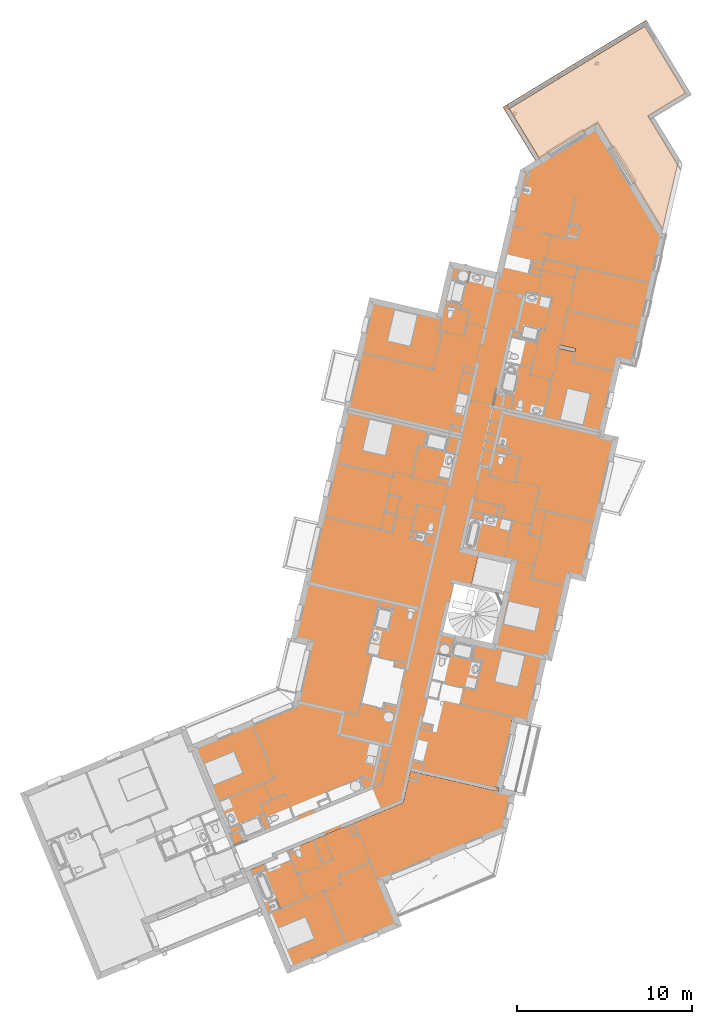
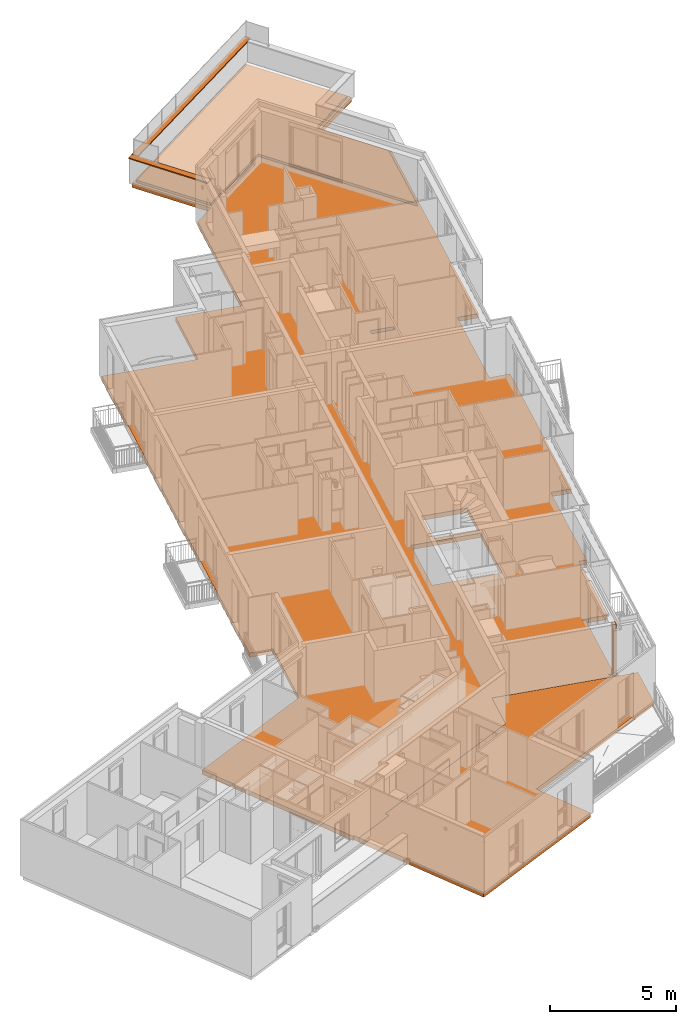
# One storey, part 90 of 91: 6 proxies, 2 openings.
"""IFC2X3 building model written with IfcOpenShell, lengths in metres."""

from ifc_helpers import new_model, entity, si_unit, converted_unit, derived_unit, money_unit, direction, frame, origin_with_axes, place, context, subcontext, project, spatial, faceted_brep, material, material_list, type_object, element, save


model = new_model("IFC2X3")

# Units and contexts
model_context = context("Model", 3, precision=1e-05, world=origin_with_axes(), true_north=direction((0.0, 1.0)))
body_context = subcontext(model_context, "Body", "Model", "MODEL_VIEW")
ifc_project = project(units=[si_unit("LENGTHUNIT", "METRE"), si_unit("AREAUNIT", "SQUARE_METRE"), si_unit("VOLUMEUNIT", "CUBIC_METRE"), converted_unit("PLANEANGLEUNIT", "DEGREE", entity("IfcPlaneAngleMeasure", 0.0174532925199), si_unit("PLANEANGLEUNIT", "RADIAN"), dimensions=[0, 0, 0, 0, 0, 0, 0]), si_unit("SOLIDANGLEUNIT", "STERADIAN"), money_unit("EUR"), converted_unit("TIMEUNIT", "Year", entity("IfcTimeMeasure", 31556926.0), si_unit("TIMEUNIT", "SECOND"), dimensions=[0, 0, 1, 0, 0, 0, 0]), si_unit("MASSUNIT", "GRAM", prefix="KILO"), si_unit("THERMODYNAMICTEMPERATUREUNIT", "DEGREE_CELSIUS"), si_unit("LUMINOUSINTENSITYUNIT", "LUMEN"), si_unit("ENERGYUNIT", "JOULE", prefix="MEGA"), derived_unit("THERMALCONDUCTANCEUNIT", [(si_unit("POWERUNIT", "WATT"), 1), (si_unit("LENGTHUNIT", "METRE"), -1), (si_unit("THERMODYNAMICTEMPERATUREUNIT", "KELVIN"), -1)]), derived_unit("SPECIFICHEATCAPACITYUNIT", [(si_unit("ENERGYUNIT", "JOULE"), 1), (si_unit("MASSUNIT", "GRAM", prefix="KILO"), -1), (si_unit("THERMODYNAMICTEMPERATUREUNIT", "KELVIN"), -1)]), derived_unit("MASSDENSITYUNIT", [(si_unit("MASSUNIT", "GRAM", prefix="KILO"), 1), (si_unit("VOLUMEUNIT", "CUBIC_METRE"), -1)])], contexts=[model_context])

# Site, building, storey
site_placement = place(None, origin_with_axes())
site = spatial("IfcSite", under=ifc_project, at=site_placement, Name="Site", CompositionType="ELEMENT")
building_placement = place(site_placement, origin_with_axes())
building = spatial("IfcBuilding", under=site, at=building_placement, Name="Bâtiment", CompositionType="ELEMENT")
storey_placement = place(building_placement, frame((0.0, 0.0, 5.44), z_axis=(0.0, 0.0, 1.0), x_axis=(1.0, 0.0, 0.0)))
storey = spatial("IfcBuildingStorey", under=building, at=storey_placement, Name="R+2", CompositionType="ELEMENT", Elevation=5.44)

# Proxy
ifc_material_1 = material(Name="Béton")
building_element_proxy_type_1 = type_object("IfcBuildingElementProxyType", Name="Béton 180", PredefinedType="NOTDEFINED")
proxy_1_placement = place(storey_placement, frame((-8.05114683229, -17.6308126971, 0.0), z_axis=(0.0, 0.0, 1.0), x_axis=(-0.97438734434, 0.224876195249, 0.0)))
element("IfcBuildingElementProxy", 1, at=proxy_1_placement, inside=storey, type_object=building_element_proxy_type_1, material=ifc_material_1, Name="M_Ext-009", context=body_context, shape_type="Brep", body=[
    faceted_brep([(0.0, 0.0, 0.0), (0.0, 0.18, 0.0), (0.144999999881, 0.18, 0.0), (0.144999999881, 0.0, 0.0), (0.0, 0.0, 2.5), (0.0, 0.18, 2.5), (0.144999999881, 0.18, 2.5), (0.144999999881, 0.0, 2.5)], [[[0, 1, 2, 3]], [[4, 5, 1, 0]], [[1, 5, 6, 2]], [[7, 3, 2, 6]], [[4, 0, 3, 7]], [[5, 4, 7, 6]]]),
])

# Proxy, openings
building_element_proxy_type_2 = type_object("IfcBuildingElementProxyType", Name="Béton 210", PredefinedType="NOTDEFINED")
proxy_2_placement = place(storey_placement, frame((-22.6492582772, -22.181358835, 0.0), z_axis=(0.0, 0.0, 1.0), x_axis=(1.0, 0.0, 0.0)))
proxy_2 = element("IfcBuildingElementProxy", 2, at=proxy_2_placement, inside=storey, type_object=building_element_proxy_type_2, material=ifc_material_1, Name="Dalle_004", context=body_context, shape_type="Brep", body=[
    faceted_brep([(14.6911282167, 4.54447334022, -0.209999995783), (14.6877550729, 4.52985753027, -0.210000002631), (14.3350268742, 4.61126271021, -0.21), (14.3197352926, 4.54500437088, -0.21), (14.6724634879, 4.46359919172, -0.210000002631), (14.6427798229, 4.33498006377, -0.21), (9.52822067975, 5.51535523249, -0.21), (9.11110858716, 3.70801080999, -0.21), (1.88172818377, 0.709568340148, -0.21), (1.95451957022, 0.534065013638, -0.21), (0.160690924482, -0.209939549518, -0.21), (0.0618478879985, 0.0283754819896, -0.21), (0.0, 0.0, -0.21), (-2.88135926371, 6.94708748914, -0.21), (2.94245780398, 9.36292369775, -0.21), (3.72876409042, 12.769900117, -0.21), (2.77384620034, 12.9902830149, -0.21), (7.26472895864, 32.4492535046, -0.21), (11.1427905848, 31.5542462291, -0.21), (11.8241654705, 34.5066398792, -0.21), (14.5137769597, 33.8859117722, -0.21), (15.8717268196, 39.7699010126, -0.21), (16.7972148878, 40.3324096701, -0.21), (14.9533933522, 43.3660250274, -0.21), (22.9553015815, 48.229558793, -0.21), (25.4292347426, 44.1592290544, -0.21), (23.2928858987, 42.8607631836, -0.21), (24.9392801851, 40.1519722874, -0.209999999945), (22.3054301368, 28.7395144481, -0.21), (21.5377993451, 28.9166738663, -0.21), (21.4715410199, 28.9319654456, -0.21), (21.4636703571, 28.8978619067, -0.21), (20.4951285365, 24.7011756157, -0.21), (21.3290176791, 24.5087246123, -0.21), (19.4624081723, 16.4207158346, -0.21), (18.6285190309, 16.6131668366, -0.21), (17.5356941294, 11.8779626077, -0.21), (17.2213744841, 11.9505035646, -0.21), (16.3494560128, 8.17248559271, -0.21), (15.5699461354, 8.35238653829, -0.209999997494), (15.3146566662, 8.41130411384, -0.21), (15.2993650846, 8.3450457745, -0.21), (15.4260354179, 8.31581187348, -0.209999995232), (14.562509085, 4.57415699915, -0.21), (14.1875108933, 12.7858152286, -0.21), (14.830656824, 15.5725630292, -0.21), (12.0195493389, 16.2213308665, -0.21), (11.3764034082, 13.434583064, -0.21), (14.875632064, 15.7674404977, -0.21), (15.2354339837, 17.3264602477, -0.21), (13.3840980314, 17.7537250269, -0.21), (13.0242961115, 16.1947052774, -0.21), (18.0130691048, 29.8399493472, -0.21), (17.9680938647, 29.6450718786, -0.21), (18.913842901, 29.4268050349, -0.21), (18.9588181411, 29.6216825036, -0.21), (14.6911282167, 4.54447334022, -0.200000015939), (14.6911282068, 4.54447334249, -1.55429713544e-09), (14.6877550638, 4.52985753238, 0.0), (14.3350268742, 4.61126271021, 0.0), (14.3242328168, 4.56449211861, 0.0), (14.3242328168, 4.56449211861, -0.200000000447), (14.3197352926, 4.54500437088, -0.2), (14.6724634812, 4.46359919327, -0.200000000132), (14.6769610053, 4.48308694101, -0.200000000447), (14.6769610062, 4.48308694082, 0.0), (14.6427798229, 4.33498006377, 0.0), (9.52822067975, 5.51535523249, 0.0), (9.11110858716, 3.70801080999, 0.0), (1.88172818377, 0.709568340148, 0.0), (1.95451957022, 0.534065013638, 0.0), (0.160690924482, -0.209939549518, 0.0), (0.0618478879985, 0.0283754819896, 0.0), (0.0, 0.0, 0.0), (-2.88135926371, 6.94708748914, 0.0), (2.94245780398, 9.36292369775, 0.0), (3.72876409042, 12.769900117, 0.0), (2.77384620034, 12.9902830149, 0.0), (7.26472895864, 32.4492535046, 0.0), (11.1427905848, 31.5542462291, 0.0), (11.8241654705, 34.5066398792, 0.0), (14.5137769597, 33.8859117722, 0.0), (15.8717268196, 39.7699010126, 0.0), (16.7972148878, 40.3324096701, 0.0), (14.9533933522, 43.3660250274, 0.0), (22.9553015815, 48.229558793, 0.0), (25.4292347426, 44.1592290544, 0.0), (23.2928858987, 42.8607631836, 0.0), (24.9393149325, 40.1519151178, -0.200000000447), (24.9392801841, 40.151972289, -0.200000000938), (24.8258558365, 40.3385878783, 0.0), (24.8258558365, 40.3385878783, -0.0171179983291), (24.8267737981, 40.3370775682, -0.0171179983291), (24.826773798, 40.3370775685, 0.0), (24.9393149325, 40.1519151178, 0.0), (22.3054301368, 28.7395144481, -0.2), (21.5377993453, 28.9166738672, -0.2), (21.4910287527, 28.9274679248, -0.200000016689), (21.4715410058, 28.9319654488, -0.200000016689), (21.463670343, 28.8978619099, -0.200000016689), (21.4636703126, 28.8978619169, 0.0), (20.4951285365, 24.7011756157, 0.0), (21.3290176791, 24.5087246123, 0.0), (19.4624081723, 16.4207158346, 0.0), (18.6285190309, 16.6131668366, 0.0), (17.5356941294, 11.8779626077, 0.0), (17.2213744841, 11.9505035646, 0.0), (16.3494560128, 8.17248559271, 0.0), (15.5699461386, 8.35238655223, 0.0), (15.5699461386, 8.35238655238, -0.200000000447), (15.3146566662, 8.41130411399, -0.200000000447), (15.3101591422, 8.39181636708, -0.200000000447), (15.3101591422, 8.39181636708, -1.36298261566e-09), (15.2993650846, 8.3450457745, -1.36298261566e-09), (15.2993650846, 8.3450457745, -0.2), (15.4260354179, 8.31581187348, -0.2), (15.4260354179, 8.31581187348, -1.19922294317e-09), (14.5625090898, 4.57415699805, -1.4579093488e-09), (14.1875108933, 12.7858152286, 0.0), (14.830656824, 15.5725630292, 0.0), (12.0195493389, 16.2213308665, 0.0), (11.3764034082, 13.434583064, 0.0), (14.875632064, 15.7674404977, 0.0), (15.2354339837, 17.3264602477, 0.0), (13.3840980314, 17.7537250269, 0.0), (13.0242961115, 16.1947052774, 0.0), (18.0130691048, 29.8399493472, 0.0), (17.9680938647, 29.6450718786, 0.0), (18.913842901, 29.4268050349, 0.0), (18.9588181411, 29.6216825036, 0.0), (15.5654486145, 8.33289880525, -1.03294439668e-09), (21.4831580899, 28.8933643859, 0.0), (21.4865312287, 28.9079801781, 0.0), (22.3202836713, 28.7155607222, 0.0), (23.8610726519, 36.1526997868, 0.0), (23.8598701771, 36.1529773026, 0.0), (22.3202836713, 28.7155607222, -0.200000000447), (22.3009326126, 28.7200267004, -0.200000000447), (21.5333018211, 28.8971861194, -0.200000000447), (21.4865312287, 28.9079801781, -0.200000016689), (23.8598701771, 36.1529773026, -0.0171179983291), (23.8610726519, 36.1526997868, -0.0171179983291), (21.4831580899, 28.8933643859, -0.200000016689), (15.5654485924, 8.33289881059, -0.200000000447)], [[[0, 1, 2, 3, 4, 5, 6, 7, 8, 9, 10, 11, 12, 13, 14, 15, 16, 17, 18, 19, 20, 21, 22, 23, 24, 25, 26, 27, 28, 29, 30, 31, 32, 33, 34, 35, 36, 37, 38, 39, 40, 41, 42, 43], [44, 45, 46, 47], [48, 49, 50, 51], [52, 53, 54, 55]], [[56, 57, 58, 1, 0]], [[2, 1, 58, 59]], [[3, 2, 59, 60, 61, 62]], [[4, 3, 62, 63]], [[4, 63, 64, 65, 66, 5]], [[6, 5, 66, 67]], [[7, 6, 67, 68]], [[8, 7, 68, 69]], [[9, 8, 69, 70]], [[10, 9, 70, 71]], [[11, 10, 71, 72]], [[12, 11, 72, 73]], [[13, 12, 73, 74]], [[14, 13, 74, 75]], [[15, 14, 75, 76]], [[16, 15, 76, 77]], [[17, 16, 77, 78]], [[18, 17, 78, 79]], [[19, 18, 79, 80]], [[20, 19, 80, 81]], [[21, 20, 81, 82]], [[22, 21, 82, 83]], [[23, 22, 83, 84]], [[24, 23, 84, 85]], [[25, 24, 85, 86]], [[26, 25, 86, 87]], [[88, 89, 27, 26, 87, 90, 91, 92, 93, 94]], [[28, 27, 89, 95]], [[29, 28, 95, 96, 97, 98, 30]], [[31, 30, 98, 99]], [[100, 101, 32, 31, 99]], [[33, 32, 101, 102]], [[34, 33, 102, 103]], [[35, 34, 103, 104]], [[36, 35, 104, 105]], [[37, 36, 105, 106]], [[38, 37, 106, 107]], [[39, 38, 107, 108, 109]], [[109, 110, 40, 39]], [[111, 112, 113, 114, 41, 40, 110]], [[115, 42, 41, 114]], [[116, 117, 43, 42, 115]], [[117, 57, 56, 0, 43]], [[45, 44, 118, 119]], [[46, 45, 119, 120]], [[47, 46, 120, 121]], [[44, 47, 121, 118]], [[49, 48, 122, 123]], [[50, 49, 123, 124]], [[51, 50, 124, 125]], [[48, 51, 125, 122]], [[52, 126, 127, 53]], [[53, 127, 128, 54]], [[54, 128, 129, 55]], [[55, 129, 126, 52]], [[66, 65, 60, 59, 58, 57, 117, 116, 113, 112, 130, 108, 107, 106, 105, 104, 103, 102, 101, 100, 131, 132, 133, 94, 93, 134, 135, 90, 87, 86, 85, 84, 83, 82, 81, 80, 79, 78, 77, 76, 75, 74, 73, 72, 71, 70, 69, 68, 67], [120, 119, 118, 121], [122, 125, 124, 123], [128, 127, 126, 129]], [[64, 61, 60, 65]], [[63, 62, 61, 64]], [[89, 88, 136, 137, 138, 139, 97, 96, 95]], [[135, 140, 91, 90]], [[140, 141, 92, 91]], [[92, 141, 134, 93]], [[136, 88, 94, 133]], [[98, 97, 139, 142, 99]], [[142, 131, 100, 99]], [[130, 143, 109, 108]], [[109, 143, 111, 110]], [[143, 130, 112, 111]], [[113, 116, 115, 114]], [[132, 131, 142, 139]], [[138, 137, 136, 133, 132, 139]], [[141, 140, 135, 134]]]),
])
opening_1_placement = place(proxy_2_placement, origin_with_axes())
element("IfcOpeningElement", 3, at=opening_1_placement, cuts=proxy_2, Name="Ouverture de dalle", context=body_context, shape_type="Brep", body=[
    faceted_brep([(14.1875108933, 12.7858152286, -0.21), (12.1023219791, 13.2670502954, -0.21), (12.1045707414, 13.2767941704, -0.21), (11.388396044, 13.4420781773, -0.21), (12.0292932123, 16.2190821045, -0.21), (14.830656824, 15.5725630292, -0.21), (14.1875108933, 12.7858152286, 0.0), (11.3764034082, 13.434583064, 0.0), (11.3764034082, 13.434583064, -0.2), (12.1023219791, 13.2670502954, -0.2), (12.1045707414, 13.2767941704, -0.2), (11.388396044, 13.4420781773, -0.2), (12.0292932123, 16.2190821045, -0.2), (12.0195493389, 16.2213308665, 0.0), (14.830656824, 15.5725630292, 0.0), (12.0195493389, 16.2213308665, -0.2)], [[[0, 1, 2, 3, 4, 5]], [[6, 7, 8, 9, 1, 0]], [[1, 9, 10, 2]], [[10, 11, 3, 2]], [[12, 4, 3, 11]], [[13, 14, 5, 4, 12, 15]], [[14, 6, 0, 5]], [[7, 6, 14, 13]], [[7, 13, 15, 8]], [[15, 12, 11, 10, 9, 8]]]),
])
opening_2_placement = place(proxy_2_placement, origin_with_axes())
element("IfcOpeningElement", 4, at=opening_2_placement, cuts=proxy_2, Name="Ouverture de dalle", context=body_context, shape_type="Brep", body=[
    faceted_brep([(13.0242961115, 16.1947052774, -0.21), (13.3840980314, 17.7537250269, -0.21), (15.2354339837, 17.3264602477, -0.21), (14.875632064, 15.7674404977, -0.21), (13.0242961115, 16.1947052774, 0.0), (13.3840980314, 17.7537250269, 0.0), (15.2354339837, 17.3264602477, 0.0), (14.875632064, 15.7674404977, 0.0)], [[[0, 1, 2, 3]], [[4, 5, 1, 0]], [[5, 6, 2, 1]], [[6, 7, 3, 2]], [[7, 4, 0, 3]], [[4, 7, 6, 5]]]),
])

# Proxies
ifc_material_2 = material(Name="Métal - Aluminium")
building_element_proxy_type_3 = type_object("IfcBuildingElementProxyType", Name="Couvertine Métal 280 x 50", PredefinedType="USERDEFINED")
proxy_3_placement = place(storey_placement, frame((-5.94546646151, 18.1834586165, 1.253), z_axis=(0.0, 0.0, 1.0), x_axis=(-0.519386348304, 0.854539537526, 0.0)))
element("IfcBuildingElementProxy", 5, at=proxy_3_placement, inside=storey, type_object=building_element_proxy_type_3, material=ifc_material_2, Name="Couvertine métal laqué", ObjectType="CONSTRUCTION ELEMENT", context=body_context, shape_type="Brep", body=[
    faceted_brep([(3.57997877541, 0.0399453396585, -0.0442531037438), (3.57997877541, 0.043193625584, -0.0442531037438), (3.57420657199, 0.0374214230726, -0.0399754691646), (3.57644880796, 0.036415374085, -0.0416371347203), (3.5817865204, 0.0431936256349, -0.0442531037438), (3.58178651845, 0.0399453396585, -0.0442531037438), (0.0, 0.0374214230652, -0.0399754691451), (0.0, 0.0431936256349, -0.0442531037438), (0.0, 0.036415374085, -0.0416371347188), (0.0, 0.0450013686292, -0.048), (3.5817865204, 0.0450013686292, -0.048), (3.5817865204, 0.0431936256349, 0.0), (0.0, 0.0431936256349, 0.0), (3.5817865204, 0.0450013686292, 0.00199999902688), (3.5817865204, -0.235001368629, 0.00199999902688), (3.58178651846, -0.235001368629, -1.46180134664e-09), (3.5817865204, -0.233193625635, 0.0), (0.0, 0.0450013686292, 0.002), (0.0, -0.233193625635, 0.0), (0.0, -0.233193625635, -0.0442531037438), (0.0, -0.227421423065, -0.0399754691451), (0.0, -0.226415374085, -0.0416371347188), (0.0, -0.235001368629, -0.048), (0.0, -0.235001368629, 0.002), (3.57997877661, -0.233193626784, -1.46180134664e-09), (3.30359152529, -0.233193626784, -1.46180134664e-09), (3.30359152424, -0.235001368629, -0.0442531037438), (3.30359152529, -0.235001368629, -0.0399754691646), (3.30359152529, -0.235001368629, -1.46180134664e-09), (3.57997877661, -0.235001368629, -1.46180134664e-09), (3.30178377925, -0.235001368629, -0.048), (3.30683980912, -0.235001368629, -0.0442531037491), (3.30359152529, -0.233193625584, -0.0399754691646), (3.30359152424, -0.233193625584, -0.0442531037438), (3.30683981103, -0.233193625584, -0.0442531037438), (3.31036977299, -0.229663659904, -0.0416371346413), (3.30936372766, -0.227421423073, -0.0399754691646), (3.31036977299, -0.226415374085, -0.0416371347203), (3.30683980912, -0.229945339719, -0.0442531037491)], [[[0, 1, 2, 3]], [[4, 1, 0, 5]], [[6, 2, 1, 7]], [[8, 3, 2, 6]], [[5, 0, 3, 8, 9, 10]], [[7, 1, 4, 11, 12]], [[5, 10, 13, 14, 15, 16, 11, 4]], [[17, 9, 8, 6, 7, 12, 18, 19, 20, 21, 22, 23]], [[17, 13, 10, 9]], [[12, 11, 16, 24, 25, 18]], [[14, 13, 17, 23]], [[26, 27, 28, 29, 15, 14, 23, 22, 30, 31]], [[15, 29, 24, 16]], [[25, 32, 33, 19, 18]], [[19, 33, 34, 35, 36, 20]], [[20, 36, 37, 21]], [[37, 38, 30, 22, 21]], [[28, 25, 24, 29]], [[27, 26, 33, 32]], [[28, 27, 32, 25]], [[31, 30, 38, 34]], [[34, 33, 26, 31]], [[35, 34, 38, 37]], [[35, 37, 36]]]),
])
proxy_4_placement = place(storey_placement, frame((-7.78242438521, 21.2057813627, 1.253), z_axis=(0.0, 0.0, 1.0), x_axis=(0.85453953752, 0.519386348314, 0.0)))
element("IfcBuildingElementProxy", 6, at=proxy_4_placement, inside=storey, type_object=building_element_proxy_type_3, material=ifc_material_2, Name="Couvertine métal laqué", ObjectType="CONSTRUCTION ELEMENT", context=body_context, shape_type="Brep", body=[
    faceted_brep([(-0.0374214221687, 0.0374214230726, -0.0399754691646), (-0.0364153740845, 0.0396636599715, -0.0416371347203), (-0.0364153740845, 0.036415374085, -0.0416371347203), (-0.039945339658, 0.043193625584, -0.0442531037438), (9.52742452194, 0.0374214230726, -0.0399754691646), (9.53319672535, 0.043193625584, -0.0442531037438), (-0.0399453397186, 0.0399453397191, -0.0442531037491), (9.5296667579, 0.036415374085, -0.0416371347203), (9.53319672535, 0.0399453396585, -0.0442531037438), (-0.0431936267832, 0.0431936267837, -1.46180134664e-09), (-0.0431936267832, 0.0431936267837, -0.0399754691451), (-0.0431936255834, 0.043193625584, -0.0442531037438), (9.53500447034, 0.0431936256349, -0.0442531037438), (9.53500447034, 0.0431936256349, 0.0), (0.23500136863, 0.0431936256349, 0.0), (-0.0450013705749, 0.0450013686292, -0.048), (9.53500447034, 0.0450013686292, -0.048), (9.5350044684, 0.0399453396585, -0.0442531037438), (-0.0399453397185, 0.0450013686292, -0.0442531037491), (-0.0431936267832, 0.0450013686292, -0.0399754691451), (-0.0431936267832, 0.0450013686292, -1.46180134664e-09), (-0.0431936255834, 0.0450013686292, -0.0442531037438), (9.53500447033, -0.235001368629, 0.00199999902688), (9.53500446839, -0.235001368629, -1.46180134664e-09), (9.53500447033, -0.233193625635, 0.0), (9.53500447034, 0.0450013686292, 0.00199999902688), (9.25680947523, -0.233193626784, -1.46180134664e-09), (0.235001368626, -0.233193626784, -1.46180134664e-09), (9.53319672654, -0.233193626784, -1.46180134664e-09), (0.23500136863, 0.0450013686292, -3.74129172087e-10), (0.23500136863, 0.0450013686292, 0.00199999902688), (0.235001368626, -0.235001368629, -0.0399754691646), (0.235001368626, -0.235001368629, -0.0442531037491), (0.235001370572, -0.235001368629, -0.048), (9.25500172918, -0.235001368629, -0.048), (9.26005775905, -0.235001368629, -0.0442531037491), (9.25680947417, -0.235001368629, -0.0442531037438), (9.25680947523, -0.235001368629, -0.0399754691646), (9.25680947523, -0.235001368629, -1.46180134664e-09), (9.53319672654, -0.235001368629, -1.46180134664e-09), (0.235001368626, -0.235001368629, 0.00199999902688), (0.235001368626, -0.235001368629, -1.46180134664e-09), (9.25680947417, -0.233193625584, -0.0442531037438), (0.235001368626, -0.233193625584, -0.0442531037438), (0.235001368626, -0.233193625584, -0.0399754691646), (9.25680947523, -0.233193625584, -0.0399754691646), (0.235001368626, -0.229945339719, -0.0442531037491), (0.233193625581, -0.229945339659, -0.0442531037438), (0.229663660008, -0.226415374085, -0.0416371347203), (9.26358772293, -0.226415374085, -0.0416371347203), (9.26005775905, -0.229945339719, -0.0442531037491), (9.26005776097, -0.233193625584, -0.0442531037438), (9.26258167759, -0.227421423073, -0.0399754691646), (0.227421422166, -0.227421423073, -0.0399754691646), (0.233193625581, -0.233193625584, -0.0442531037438), (9.26358772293, -0.229663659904, -0.0416371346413)], [[[0, 1, 2]], [[3, 1, 0, 4, 5]], [[6, 2, 1, 3]], [[4, 0, 2, 7]], [[7, 8, 5, 4]], [[9, 10, 11, 3, 5, 12, 13, 14]], [[7, 2, 6, 15, 16, 17, 8]], [[18, 15, 6, 3]], [[12, 5, 8, 17]], [[19, 10, 9, 20]], [[21, 11, 10, 19]], [[3, 11, 21, 18]], [[22, 23, 24, 13, 12, 17, 16, 25]], [[26, 27, 14, 13, 24, 28]], [[29, 20, 9, 14]], [[18, 21, 19, 20, 29, 30, 25, 16, 15]], [[31, 32, 33, 34, 35, 36, 37, 38, 39, 23, 22, 40, 41]], [[23, 39, 28, 24]], [[25, 30, 40, 22]], [[42, 43, 44, 27, 26, 45]], [[41, 40, 30, 29, 14, 27]], [[39, 38, 26, 28]], [[44, 43, 32, 31]], [[33, 32, 43, 46]], [[46, 47, 48, 49, 50, 34, 33]], [[35, 34, 50, 51]], [[51, 42, 36, 35]], [[37, 36, 42, 45]], [[38, 37, 45, 26]], [[27, 44, 31, 41]], [[52, 53, 54, 43, 42, 51, 55]], [[46, 43, 54, 47]], [[53, 48, 47, 54]], [[49, 48, 53, 52]], [[55, 51, 50, 49]], [[55, 49, 52]]]),
])
ifc_material_3 = material(Name="Etanchéité - Bitume")
ifc_material_4 = material(Name="Isolation - Polyuréthane (extérieur)")
ifc_material_list = material_list([ifc_material_3, ifc_material_4])
building_element_proxy_type_4 = type_object("IfcBuildingElementProxyType", Name="6 - Isolation sur terrasse sous dalle béton 110", PredefinedType="NOTDEFINED")
proxy_5_placement = place(storey_placement, frame((-7.51450671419, 21.1404259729, 0.11), z_axis=(0.0, 0.0, 1.0), x_axis=(1.0, 0.0, 0.0)))
element("IfcBuildingElementProxy", 7, at=proxy_5_placement, inside=storey, type_object=building_element_proxy_type_4, material=ifc_material_list, Name="Dalle_003", context=body_context, shape_type="Brep", body=[
    faceted_brep([(1.73974048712, -2.86237216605, -0.01), (4.8933443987, -0.945621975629, -0.01), (4.89334439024, -0.945621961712, -5.41918510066e-10), (1.73974048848, -2.86237216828, -4.53639881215e-09), (0.0, 0.0, -0.01), (7.77630979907, 4.7264157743, -0.01), (10.1131249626, 0.881684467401, -0.01), (7.97677611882, -0.416781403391, -0.01), (7.98239339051, -0.426023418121, -0.01), (9.6526724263, -3.17411158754, -0.01), (8.78003024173, -6.95526540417, -0.01), (5.06425227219, -0.841744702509, -0.01), (5.06425227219, -0.841744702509, 0.0), (5.04715391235, -0.852139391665, 0.0), (8.78003024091, -6.95526540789, -2.9228441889e-10), (9.65267242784, -3.1741115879, 3.08479908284e-09), (7.98239339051, -0.426023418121, 0.0), (7.97677611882, -0.416781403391, 0.0), (10.1131249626, 0.881684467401, 0.0), (7.77630979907, 4.7264157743, 0.0), (0.0, 0.0, 0.0)], [[[0, 1, 2, 3]], [[1, 0, 4, 5, 6, 7, 8, 9, 10, 11]], [[2, 1, 11, 12, 13]], [[3, 2, 13, 12, 14, 15, 16, 17, 18, 19, 20]], [[0, 3, 20, 4]], [[4, 20, 19, 5]], [[5, 19, 18, 6]], [[17, 7, 6, 18]], [[16, 8, 7, 17]], [[8, 16, 15, 9]], [[10, 9, 15, 14]], [[12, 11, 10, 14]]]),
    faceted_brep([(9.66383003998, -3.19246906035, -0.0910234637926), (8.79118785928, -6.97362285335, -0.0910234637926), (8.7911878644, -6.97362285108, -0.0999999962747), (9.66383004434, -3.19246906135, -0.0999999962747), (9.64951067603, -3.16890959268, -0.0988986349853), (8.77686848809, -6.9500634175, -0.0988986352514), (8.77686848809, -6.9500634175, -0.11), (8.78374944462, -6.96138451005, -0.11), (8.78374944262, -6.96138451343, -0.0999999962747), (9.65639162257, -3.18023072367, -0.0999999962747), (9.6495106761, -3.16890959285, -0.11), (9.65639162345, -3.18023072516, -0.11)], [[[0, 1, 2, 3]], [[1, 0, 4, 5]], [[5, 6, 7, 8, 2, 1]], [[9, 3, 2, 8]], [[10, 4, 0, 3, 9, 11]], [[4, 10, 6, 5]], [[6, 10, 11, 7]], [[11, 9, 8, 7]]]),
    faceted_brep([(8.79118785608, -6.97362286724, -0.0529580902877), (9.66383004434, -3.19246906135, -0.0529580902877), (9.66383004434, -3.19246906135, -0.01), (8.79118785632, -6.97362288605, -0.01), (9.66305243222, -3.19118966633, -0.052958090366), (8.79041024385, -6.97234349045, -0.052958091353), (9.64859271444, -3.16739928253, -0.0978200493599), (9.64859271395, -3.16739928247, -0.11), (7.98239339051, -0.426023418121, -0.11), (7.98239339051, -0.426023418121, -0.01), (9.66305243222, -3.19118966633, -0.0899763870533), (7.77630979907, 4.7264157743, -0.01), (0.0, 0.0, -0.01), (1.73978469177, -2.86280446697, -0.01), (5.06425227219, -0.841744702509, -0.01), (10.1187422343, 0.872442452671, -0.01), (5.06425227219, -0.841744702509, -0.11), (8.77595052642, -6.94855310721, -0.11), (8.77595052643, -6.94855310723, -0.0978200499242), (8.79041024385, -6.97234349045, -0.0899763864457), (1.73978469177, -2.86280446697, -0.11), (0.0, 0.0, -0.11), (7.77630979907, 4.7264157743, -0.11), (10.1187422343, 0.872442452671, -0.11)], [[[0, 1, 2, 3]], [[4, 1, 0, 5]], [[6, 7, 8, 9, 2, 1, 4, 10]], [[11, 12, 13, 14, 3, 2, 9, 15]], [[5, 0, 3, 14, 16, 17, 18, 19]], [[10, 4, 5, 19]], [[7, 6, 18, 17]], [[7, 17, 16, 20, 21, 22, 23, 8]], [[9, 8, 23, 15]], [[6, 10, 19, 18]], [[11, 22, 21, 12]], [[12, 21, 20, 13]], [[13, 20, 16, 14]], [[15, 23, 22, 11]]]),
])
building_element_proxy_type_5 = type_object("IfcBuildingElementProxyType", Name="Béton 230", PredefinedType="NOTDEFINED")
proxy_6_placement = place(storey_placement, frame((-22.4885673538, -22.3912983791, 0.0), z_axis=(0.0, 0.0, 1.0), x_axis=(1.0, 0.0, 0.0)))
element("IfcBuildingElementProxy", 8, at=proxy_6_placement, inside=storey, type_object=building_element_proxy_type_5, material=ifc_material_1, Name="Dalle_003", context=body_context, shape_type="Brep", body=[
    faceted_brep([(14.7918358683, 2.3295384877, -0.210000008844), (14.8283072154, 2.48756853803, -0.210000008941), (15.2615988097, 4.36501864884, -0.210000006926), (15.2615987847, 4.36501863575, 0.0), (14.7918358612, 2.3295385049, 0.0), (7.76590962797, -0.441616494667, -0.210000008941), (14.6784975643, 2.42543380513, -0.210000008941), (15.1329796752, 4.39470230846, -0.210000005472), (7.77214280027, -0.581934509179, -0.21), (7.67176732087, -0.339924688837, -0.209999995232), (7.71610500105, -0.321535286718, -0.209999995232), (15.1329796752, 4.39470230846, -0.23), (9.3675297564, 5.72529477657, -0.23), (9.3675297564, 5.72529477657, 0.0), (1.72103726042, 0.919507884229, 0.0), (1.79382864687, 0.744004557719, 0.0), (0.0, 0.0, 0.0), (2.37870777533, -5.73517205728, 0.0), (8.7856825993, -3.07782877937, 0.0), (7.75366876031, -0.589596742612, 0.0), (8.95041766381, 3.91795035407, 0.0), (7.75366875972, -0.589596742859, -0.219999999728), (7.77214279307, -0.581934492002, -0.219999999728), (7.76590962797, -0.441616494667, -0.23), (14.6784975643, 2.42543380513, -0.23), (7.76590962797, -0.441616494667, -0.219999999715), (7.67176732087, -0.339924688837, -0.219999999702), (7.65329328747, -0.347586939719, -0.219999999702), (7.65329328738, -0.347586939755, -0.23), (7.71610500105, -0.321535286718, -0.23), (7.71610500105, -0.321535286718, -0.219999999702), (7.75366877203, -0.589596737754, -0.23), (8.7856825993, -3.07782877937, -0.23), (2.37870777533, -5.73517205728, -0.23), (0.0, 0.0, -0.23), (1.79382864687, 0.744004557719, -0.23), (1.72103726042, 0.919507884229, -0.23), (8.95041766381, 3.91795035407, -0.23)], [[[0, 1, 2, 3, 4]], [[5, 6, 7, 2, 1, 0, 8, 9, 10]], [[2, 7, 11, 12, 13, 3]], [[14, 15, 16, 17, 18, 19, 4, 3, 13, 20]], [[8, 0, 4, 19, 21, 22]], [[23, 24, 6, 5, 25]], [[24, 11, 7, 6]], [[9, 8, 22, 26]], [[27, 28, 29, 30, 10, 9, 26]], [[30, 25, 5, 10]], [[12, 11, 24, 23, 29, 28, 31, 32, 33, 34, 35, 36, 37]], [[20, 13, 12, 37]], [[15, 14, 36, 35]], [[16, 15, 35, 34]], [[17, 16, 34, 33]], [[18, 17, 33, 32]], [[32, 31, 21, 19, 18]], [[14, 20, 37, 36]], [[26, 22, 21, 27]], [[29, 23, 25, 30]], [[27, 21, 31, 28]]]),
])

save(model, "model.ifc")
